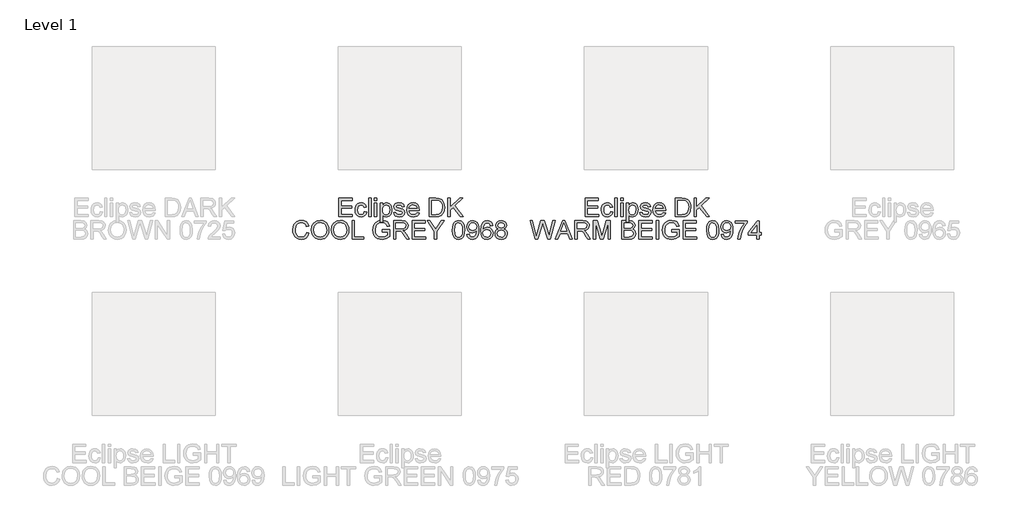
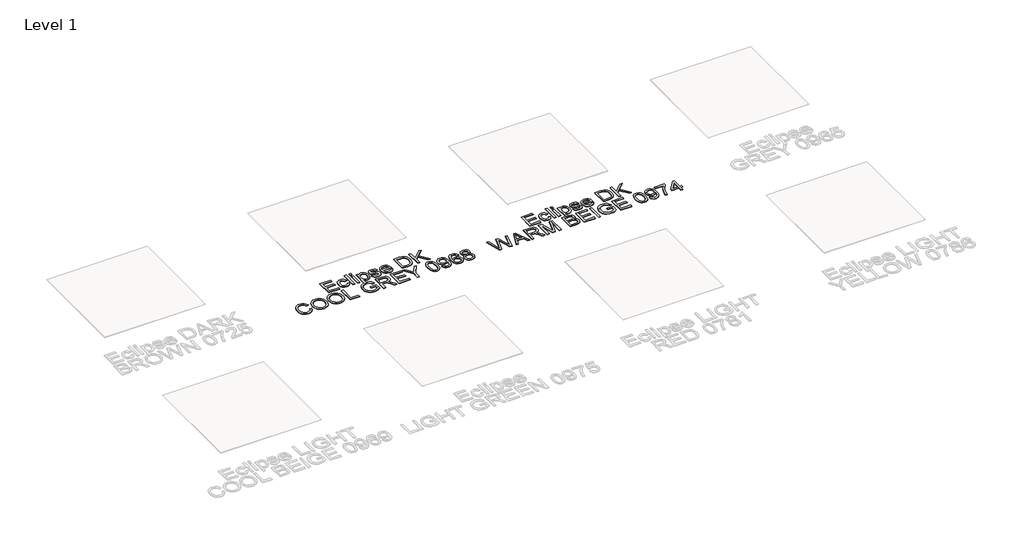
# One storey, part 11 of 13: 2 proxies.
"""IFC4 building model written with IfcOpenShell, lengths in millimetres."""

from ifc_helpers import new_model, si_unit, origin, origin_with_axes, place, context, project, spatial, polyline, outline, extrude, element, save

model = new_model("IFC4")

# Units and contexts
model_context = context("Model", 3, world=origin())
ifc_project = project(units=[si_unit("LENGTHUNIT", "METRE", prefix="MILLI")], contexts=[model_context])

# Site, building, storey
site = spatial("IfcSite", under=ifc_project)
building = spatial("IfcBuilding", under=site)
storey = spatial("IfcBuildingStorey", under=building, Name="Level 1", Elevation=0.0)

# Proxies
placement = place(None, origin())
element("IfcBuildingElementProxy", 1, Name="150mm Arial", ObjectType="150mm Arial", at=placement, inside=storey, context=model_context, shape_type="SweptSolid", body=[
    extrude(outline(polyline([(-429.5514672, 637.0544578), (-429.5514672, 787.738923), (-321.2470078, 787.738923), (-321.2470078, 768.9033648), (-410.7159091, 768.9033648), (-410.7159091, 724.1689142), (-325.9558974, 724.1689142), (-325.9558974, 705.3333561), (-410.7159091, 705.3333561), (-410.7159091, 655.8900159), (-318.8925631, 655.8900159), (-318.8925631, 637.0544578), (-429.5514672, 637.0544578)])), origin_with_axes(), (0.0, 0.0, 1.0), 5.0),
    extrude(outline(polyline([(-222.3603275, 677.0800188), (-203.5247694, 674.7255741), (-208.7762849, 657.9731477), (-218.6447194, 645.3134086), (-232.2011709, 637.3533619), (-248.5167374, 634.700013), (-268.5525105, 638.4018256), (-284.219685, 649.5072633), (-294.3318414, 667.5288825), (-297.7025601, 691.9792397), (-296.2632218, 708.7408631), (-291.9452069, 723.2676033), (-284.6795375, 734.9984405), (-274.3972357, 743.3723544), (-262.0961815, 748.3939436), (-248.7742548, 750.0678067), (-232.85876, 747.7685442), (-220.1346415, 740.8707568), (-211.0065695, 729.7423265), (-205.8792141, 714.7511352), (-224.7147723, 712.3966904), (-233.4519697, 726.5049649), (-248.627102, 731.2322485), (-260.7993975, 728.9053949), (-270.4608984, 721.9248341), (-276.7654761, 709.9134869), (-278.867002, 692.4942744), (-276.8114613, 674.8405372), (-270.6448394, 662.7878033), (-261.1580824, 655.8486292), (-249.1421368, 653.5355712), (-239.3886654, 654.979508), (-231.3918305, 659.3113185), (-225.5746965, 666.6413672), (-222.3603275, 677.0800188)])), origin_with_axes(), (0.0, 0.0, 1.0), 5.0),
    extrude(outline(polyline([(-187.043656, 637.0544578), (-187.043656, 787.738923), (-168.2080978, 787.738923), (-168.2080978, 637.0544578), (-187.043656, 637.0544578)])), origin_with_axes(), (0.0, 0.0, 1.0), 5.0),
    extrude(outline(polyline([(-139.9547606, 768.9033648), (-139.9547606, 787.738923), (-121.1192025, 787.738923), (-121.1192025, 768.9033648), (-139.9547606, 768.9033648)])), origin_with_axes(), (0.0, 0.0, 1.0), 5.0),
    extrude(outline(polyline([(-139.9547606, 637.0544578), (-139.9547606, 747.7133619), (-121.1192025, 747.7133619), (-121.1192025, 637.0544578), (-139.9547606, 637.0544578)])), origin_with_axes(), (0.0, 0.0, 1.0), 5.0),
    extrude(outline(polyline([(-92.8658652, 594.6744519), (-92.8658652, 747.7133619), (-74.0303071, 747.7133619), (-74.0303071, 729.2456858), (-61.0072844, 744.8622765), (-43.4225251, 750.0678067), (-30.684611, 748.2467908), (-19.5469836, 742.7837432), (-10.4786924, 734.0097576), (-3.948787, 722.2559279), (1.3119255, 693.2300384), (-0.173398, 677.1214056), (-4.6293687, 662.7142269), (-11.9134322, 650.739668), (-21.8830343, 641.9288942), (-33.4943097, 636.5072333), (-45.7033934, 634.700013), (-62.0925363, 639.5376612), (-74.0303071, 651.7697376), (-74.0303071, 594.6744519), (-92.8658652, 594.6744519)]), holes=[polyline([(-74.0303071, 691.5009931), (-71.9931605, 674.6152095), (-65.8817209, 662.8061974), (-56.8640135, 655.8532277), (-46.1080636, 653.5355712), (-35.1773699, 655.9360012), (-25.9297362, 663.1372912), (-19.6251585, 675.3785646), (-17.5236326, 692.8989446), (-19.5745747, 709.6927577), (-25.7274011, 721.6673167), (-34.7313129, 728.8410156), (-45.3355115, 731.2322485), (-55.9810967, 728.6892642), (-65.3298979, 721.0603114), (-71.8552048, 708.5845132), (-74.0303071, 691.5009931)])]), origin_with_axes(), (0.0, 0.0, 1.0), 5.0),
    extrude(outline(polyline([(15.4385942, 670.0166845), (34.2741523, 672.3711293), (37.2447994, 664.3145136), (42.9929556, 658.3916135), (62.9689479, 653.5355712), (82.1723881, 657.9869433), (88.426382, 668.434792), (86.8536865, 673.235652), (82.1355999, 676.8960778), (62.7482187, 682.267155), (34.3845169, 691.482599), (22.0052878, 702.2431473), (17.7930389, 717.4366737), (21.1775533, 731.4713718), (30.4113914, 742.195132), (42.3859503, 747.7685442), (58.5911522, 750.0678067), (81.5102005, 746.3705926), (96.0783275, 736.3642024), (102.5530506, 719.4600247), (83.7174925, 717.1055799), (76.6357641, 727.4982463), (60.0626802, 731.2322485), (42.0364624, 727.6637932), (36.6285971, 719.3496601), (38.8726772, 713.8682184), (45.8992234, 709.7111518), (62.1228193, 705.7012381), (89.7691513, 696.835282), (102.6082329, 686.7921035), (107.2619401, 670.4213547), (101.7988925, 652.395137), (86.035149, 639.316932), (62.7114305, 634.700013), (43.7195225, 636.9256991), (29.8595684, 643.6027573), (20.6073362, 654.6576112), (15.4385942, 670.0166845)])), origin_with_axes(), (0.0, 0.0, 1.0), 5.0),
    extrude(outline(polyline([(205.9278913, 670.0166845), (224.3955674, 667.6622398), (217.7415018, 653.7471033), (207.1235077, 643.3452399), (192.7807085, 636.8613197), (174.9522273, 634.700013), (152.8517164, 638.4294167), (135.8463712, 649.6176279), (125.0030494, 667.5380796), (121.3886088, 691.4642049), (125.0398376, 716.195072), (135.993524, 734.6903393), (152.768943, 746.2234398), (173.8853695, 750.0678067), (194.3442069, 746.2326369), (210.6919631, 734.7271275), (221.4111247, 716.2686484), (224.9841786, 691.5745695), (224.873814, 686.4977979), (140.2241669, 686.4977979), (143.4845211, 672.3987205), (151.0582917, 662.0336452), (161.9889855, 655.6600897), (175.3201093, 653.5355712), (193.7877854, 657.4719085), (205.9278913, 670.0166845)]), holes=[polyline([(140.2241669, 705.3333561), (206.1486205, 705.3333561), (203.6010376, 715.284564), (198.6070396, 722.4030807), (187.625762, 729.0249566), (173.8117931, 731.2322485), (161.1152657, 729.4710135), (150.6168333, 724.1873083), (143.3189742, 715.9513502), (140.2241669, 705.3333561)])]), origin_with_axes(), (0.0, 0.0, 1.0), 5.0),
    extrude(outline(polyline([(305.0353008, 637.0544578), (305.0353008, 787.738923), (357.0170267, 787.738923), (383.9092005, 785.5684192), (406.0556966, 774.7894768), (416.4759541, 763.3115585), (423.8979734, 749.0377371), (428.3401485, 732.243924), (429.8208735, 713.2060308), (425.8109598, 682.8005839), (415.5102639, 660.8564229), (401.7514773, 647.1896067), (383.7436536, 639.6296317), (359.5186242, 637.0544578), (305.0353008, 637.0544578)]), holes=[polyline([(323.8708589, 655.8900159), (357.2009677, 655.8900159), (381.4443912, 658.6123427), (395.423907, 666.3010764), (406.8834311, 685.0078758), (410.9853154, 713.5003364), (408.97576, 734.0281517), (402.9470938, 749.1848899), (394.039751, 759.5959504), (383.3941657, 765.8867325), (356.6859329, 768.9033648), (323.8708589, 768.9033648), (323.8708589, 655.8900159)])]), origin_with_axes(), (0.0, 0.0, 1.0), 5.0),
    extrude(outline(polyline([(455.719766, 637.0544578), (455.719766, 787.738923), (474.5553241, 787.738923), (474.5553241, 713.978583), (551.8105431, 787.738923), (578.150894, 787.738923), (513.2932982, 725.787595), (580.5053387, 637.0544578), (557.4759258, 637.0544578), (499.9391818, 713.058878), (474.5553241, 688.8522427), (474.5553241, 637.0544578), (455.719766, 637.0544578)])), origin_with_axes(), (0.0, 0.0, 1.0), 5.0),
    extrude(outline(polyline([(-690.8948366, 507.6558495), (-672.0592784, 502.7998072), (-680.7504906, 480.8510476), (-694.3897155, 464.8159912), (-712.3055687, 455.0073375), (-733.8266654, 451.7377862), (-755.6742574, 454.2117927), (-773.024492, 461.6338119), (-786.3234261, 473.7463266), (-796.0171167, 490.2918193), (-801.9354183, 509.7435798), (-803.9081855, 530.5748978), (-801.6779009, 552.54665), (-794.9870471, 571.5201639), (-784.185112, 586.8930327), (-769.6215836, 598.0628498), (-752.3495239, 604.8640682), (-733.4219952, 607.131141), (-712.7700197, 604.1972821), (-695.6956966, 595.3957053), (-682.7324548, 581.2690367), (-674.4137232, 562.3599022), (-693.2492814, 557.8717418), (-699.7791868, 571.6075358), (-708.7003252, 581.0299134), (-720.1230611, 586.4791655), (-734.1577592, 588.2955828), (-750.33537, 586.2814289), (-763.625107, 580.2389671), (-773.7096722, 570.802794), (-780.2717673, 558.6075058), (-785.0726274, 530.611686), (-783.6516831, 513.2108676), (-779.3888505, 498.164494), (-772.1231811, 486.0473808), (-761.6937266, 477.4343436), (-749.1903372, 472.2885942), (-735.7028636, 470.5733444), (-719.9805068, 472.9093951), (-706.8793093, 479.9175471), (-696.9878821, 491.524224), (-690.8948366, 507.6558495)])), origin_with_axes(), (0.0, 0.0, 1.0), 5.0),
    extrude(outline(polyline([(-653.2237203, 527.4479008), (-648.202131, 560.7688126), (-641.9251445, 574.3873442), (-633.1373633, 585.9779263), (-610.1355416, 601.8428373), (-581.3027902, 607.131141), (-561.53833, 604.6479375), (-543.8156149, 597.1983271), (-529.1003351, 585.3065416), (-518.3581808, 569.4968129), (-511.7914872, 550.532496), (-509.6025894, 529.1769462), (-511.9064504, 507.5362879), (-518.8180333, 488.3052566), (-529.9556607, 472.4679367), (-544.937655, 461.0084125), (-562.5086188, 454.0554428), (-581.4131548, 451.7377862), (-601.4811177, 454.2991646), (-619.3050003, 461.9832998), (-633.9834919, 474.0958145), (-644.6152816, 489.9423314), (-651.0716106, 508.1754828), (-653.2237203, 527.4479008)]), holes=[polyline([(-634.3881621, 527.2639598), (-630.6219702, 503.691921), (-619.3233944, 485.7300826), (-602.3410418, 474.3625289), (-581.5235194, 470.5733444), (-560.4024944, 474.3993171), (-543.3925506, 485.8772354), (-532.1767483, 504.3908968), (-528.4381475, 529.324099), (-530.0384342, 545.9983504), (-534.8392942, 560.4101276), (-542.7165675, 572.196147), (-553.5460937, 580.9931252), (-566.610503, 586.4699684), (-581.1924256, 588.2955828), (-601.4535265, 584.7777113), (-618.6796009, 574.2240965), (-630.4610218, 555.4483192), (-634.3881621, 527.2639598)])]), origin_with_axes(), (0.0, 0.0, 1.0), 5.0),
    extrude(outline(polyline([(-490.7670312, 527.4479008), (-485.745442, 560.7688126), (-479.4684554, 574.3873442), (-470.6806743, 585.9779263), (-447.6788525, 601.8428373), (-418.8461012, 607.131141), (-399.081641, 604.6479375), (-381.3589258, 597.1983271), (-366.643646, 585.3065416), (-355.9014918, 569.4968129), (-349.3347982, 550.532496), (-347.1459003, 529.1769462), (-349.4497613, 507.5362879), (-356.3613443, 488.3052566), (-367.4989717, 472.4679367), (-382.4809659, 461.0084125), (-400.0519297, 454.0554428), (-418.9564658, 451.7377862), (-439.0244286, 454.2991646), (-456.8483113, 461.9832998), (-471.5268029, 474.0958145), (-482.1585925, 489.9423314), (-488.6149215, 508.1754828), (-490.7670312, 527.4479008)]), holes=[polyline([(-471.9314731, 527.2639598), (-468.1652811, 503.691921), (-456.8667054, 485.7300826), (-439.8843528, 474.3625289), (-419.0668304, 470.5733444), (-397.9458053, 474.3993171), (-380.9358616, 485.8772354), (-369.7200592, 504.3908968), (-365.9814584, 529.324099), (-367.5817451, 545.9983504), (-372.3826052, 560.4101276), (-380.2598784, 572.196147), (-391.0894046, 580.9931252), (-404.153814, 586.4699684), (-418.7357366, 588.2955828), (-438.9968374, 584.7777113), (-456.2229119, 574.2240965), (-468.0043328, 555.4483192), (-471.9314731, 527.2639598)])]), origin_with_axes(), (0.0, 0.0, 1.0), 5.0),
    extrude(outline(polyline([(-321.2470078, 454.092231), (-321.2470078, 604.7766962), (-302.4114497, 604.7766962), (-302.4114497, 472.9277892), (-227.0692171, 472.9277892), (-227.0692171, 454.092231), (-321.2470078, 454.092231)])), origin_with_axes(), (0.0, 0.0, 1.0), 5.0),
    extrude(outline(polyline([(-76.3847518, 512.9533502), (-76.3847518, 531.7889084), (-15.1691878, 531.7889084), (-15.1691878, 475.4661749), (-45.3906937, 457.6974746), (-77.341245, 451.7377862), (-98.4714671, 454.1060266), (-117.5691412, 461.2107476), (-133.4340522, 472.803629), (-144.8659852, 488.6363503), (-151.7775682, 507.6282584), (-154.0814292, 528.6986996), (-151.7867653, 549.9208922), (-144.9027734, 569.6623598), (-133.7145623, 586.2216481), (-118.5072403, 597.8973029), (-99.9843818, 604.8226815), (-78.8495612, 607.131141), (-49.3822134, 601.778458), (-37.6329822, 595.3773113), (-28.7256394, 586.8792372), (-17.3396916, 561.955232), (-34.7037218, 557.0624015), (-43.2937664, 574.4816139), (-57.972258, 584.5247924), (-79.1438668, 588.2955828), (-103.2585316, 584.2304868), (-119.6660686, 573.5619089), (-129.3597591, 559.0489642), (-135.2458711, 529.4712518), (-133.475439, 511.4588296), (-128.1641427, 496.6377837), (-119.4729305, 485.1138802), (-107.5627509, 476.9928852), (-93.6246218, 472.1782296), (-78.8495612, 470.5733444), (-53.0794274, 475.4109926), (-34.004746, 485.7300826), (-34.004746, 512.9533502), (-76.3847518, 512.9533502)])), origin_with_axes(), (0.0, 0.0, 1.0), 5.0),
    extrude(outline(polyline([(15.4385942, 454.092231), (15.4385942, 604.7766962), (80.3697663, 604.7766962), (110.5176958, 600.7116002), (119.7975191, 595.0830057), (126.9988092, 586.3274142), (131.6203268, 575.4702968), (133.1608326, 563.5371246), (130.6086513, 548.6930861), (122.9521072, 536.3874333), (109.9612743, 527.3651274), (91.4062262, 522.3711293), (102.1115922, 514.3145136), (117.378695, 494.9271325), (142.5050353, 454.092231), (120.6160566, 454.092231), (101.0079462, 485.3254124), (86.8444894, 506.0003805), (76.8932814, 515.7676475), (67.9353549, 519.3544969), (57.0092596, 520.0166845), (34.2741523, 520.0166845), (34.2741523, 454.092231), (15.4385942, 454.092231)]), holes=[polyline([(34.2741523, 538.8522427), (76.433429, 538.8522427), (97.9361316, 541.5193872), (110.1498138, 550.0542494), (114.3252745, 562.8381488), (112.3341132, 572.0260016), (106.3606293, 579.4296268), (96.082926, 584.3132602), (81.1791067, 585.9411381), (34.2741523, 585.9411381), (34.2741523, 538.8522427)])]), origin_with_axes(), (0.0, 0.0, 1.0), 5.0),
    extrude(outline(polyline([(166.1230594, 454.092231), (166.1230594, 604.7766962), (274.4275188, 604.7766962), (274.4275188, 585.9411381), (184.9586175, 585.9411381), (184.9586175, 541.2066875), (269.7186292, 541.2066875), (269.7186292, 522.3711293), (184.9586175, 522.3711293), (184.9586175, 472.9277892), (276.7819635, 472.9277892), (276.7819635, 454.092231), (166.1230594, 454.092231)])), origin_with_axes(), (0.0, 0.0, 1.0), 5.0),
    extrude(outline(polyline([(347.4153066, 454.092231), (347.4153066, 517.9197572), (288.5541874, 604.7766962), (310.7742599, 604.7766962), (342.1913823, 558.3867766), (358.2678255, 534.7319643), (374.3810568, 560.0790338), (402.8919115, 604.7766962), (425.111984, 604.7766962), (366.2508648, 517.9197572), (366.2508648, 454.092231), (347.4153066, 454.092231)])), origin_with_axes(), (0.0, 0.0, 1.0), 5.0),
    extrude(outline(polyline([(493.3908823, 528.220453), (494.7750383, 552.3397163), (498.9275063, 571.5753462), (505.8068996, 586.2216481), (515.3718315, 596.5729277), (527.6912798, 602.7257541), (542.8342224, 604.7766962), (564.8335657, 599.9206539), (580.0270922, 585.922744), (588.85626, 563.6290951), (592.2775626, 528.220453), (590.9072022, 504.2391455), (586.7961209, 485.0495009), (579.9581143, 470.3894034), (570.406978, 459.996737), (558.0599385, 453.8025239), (542.8342224, 451.7377862), (523.2629003, 455.3246357), (508.4004677, 466.085184), (497.1432786, 491.5702093), (493.3908823, 528.220453)]), holes=[polyline([(512.2264404, 528.2572412), (514.4337324, 498.628945), (521.0556083, 481.4810455), (530.9148458, 473.3002697), (542.8342224, 470.5733444), (554.7535991, 473.3094667), (564.6128366, 481.5178337), (571.2347125, 498.6749303), (573.4420044, 528.2572412), (571.3082889, 557.2187513), (564.9071421, 574.500008), (555.0662988, 583.0808556), (542.6134932, 585.9411381), (530.8228753, 583.4211464), (521.3499139, 575.8611714), (514.5073088, 557.5038598), (512.2264404, 528.2572412)])]), origin_with_axes(), (0.0, 0.0, 1.0), 5.0),
    extrude(outline(polyline([(611.1131207, 491.7633473), (629.9486789, 494.1177921), (633.1676464, 483.4262216), (638.4099648, 476.1467566), (645.5468755, 471.9666974), (654.4496198, 470.5733444), (669.6983285, 474.1601938), (680.0358125, 483.7435198), (686.197836, 500.1142686), (688.9201627, 521.9664591), (688.8097981, 525.6452791), (673.7450304, 511.3714577), (653.0884564, 505.8900159), (635.9129657, 509.2377421), (621.6161517, 519.2809205), (611.9730449, 534.7963437), (608.758676, 554.5608039), (612.1293948, 574.9782546), (622.2415511, 590.9811214), (637.430479, 601.3278025), (656.0315124, 604.7766962), (670.080006, 602.8085276), (682.8685039, 596.9040215), (693.5646729, 587.3574838), (701.3361801, 574.4632198), (706.0680622, 556.6393372), (707.6453563, 532.3039432), (706.0726607, 506.5016197), (701.3545742, 486.5578171), (693.5324832, 471.5712243), (682.6477747, 460.6405305), (669.1694981, 453.9634723), (653.566703, 451.7377862), (637.4626686, 454.363544), (624.61439, 462.2408172), (615.6288722, 474.8729652), (611.1131207, 491.7633473)]), holes=[polyline([(688.8097981, 555.0022623), (686.7772501, 567.7677675), (680.679606, 577.5902168), (671.2158417, 583.8534078), (659.0849329, 585.9411381), (646.5033687, 583.6924594), (636.423402, 576.9464233), (629.8015261, 566.6227348), (627.5942341, 553.6410989), (629.6819644, 542.0022323), (635.9451554, 532.7637957), (645.7768017, 526.7351295), (658.5698981, 524.7255741), (670.6042379, 526.7351295), (680.2933299, 532.7637957), (686.6806811, 542.3425231), (688.8097981, 555.0022623)])]), origin_with_axes(), (0.0, 0.0, 1.0), 5.0),
    extrude(outline(polyline([(820.6587052, 564.7511352), (801.823147, 562.3966904), (794.6862363, 578.1052516), (786.142177, 583.9821664), (775.81389, 585.9411381), (758.8177418, 581.3794013), (745.9602661, 564.2544945), (742.0561184, 550.2243949), (740.607583, 530.6852624), (757.2174551, 545.7132419), (777.8004528, 550.6244665), (795.2012711, 547.2675433), (809.8061863, 537.1967737), (819.7114091, 521.8101093), (823.01315, 502.5055016), (821.4588485, 489.0180279), (816.7959442, 476.5146386), (809.4107132, 465.9104401), (799.6894315, 458.1205388), (788.0735575, 453.3334744), (775.0045496, 451.7377862), (753.6352042, 455.9684292), (736.6160634, 468.660358), (725.4830345, 491.0643715), (721.7720249, 524.4312685), (725.8923032, 561.9460349), (738.2531383, 587.5966071), (755.1297248, 600.4816739), (776.9911124, 604.7766962), (793.518211, 602.1187488), (806.7527658, 594.1449066), (816.0233921, 581.4805689), (820.6587052, 564.7511352)]), holes=[polyline([(740.607583, 502.7998072), (744.9669847, 486.4842407), (756.5552675, 474.6384404), (773.5330216, 470.5733444), (785.9628345, 472.6794688), (795.7347, 478.9978421), (802.0668689, 488.9306559), (804.1775918, 501.8801022), (802.09446, 514.3099151), (795.8450646, 523.787475), (785.9076522, 529.78855), (772.7604694, 531.7889084), (760.3490506, 529.78855), (749.9701798, 523.787475), (742.9482322, 514.5398413), (740.607583, 502.7998072)])]), origin_with_axes(), (0.0, 0.0, 1.0), 5.0),
    extrude(outline(polyline([(866.9382602, 537.0864091), (849.7765651, 548.7850566), (844.2031529, 566.9952153), (847.2381793, 581.7196922), (856.3432587, 593.8873892), (870.4975185, 602.0543695), (888.6800861, 604.7766962), (906.9730183, 601.9899901), (921.3112191, 593.6298718), (930.5818454, 581.2690367), (933.6720541, 566.4801805), (928.1722183, 548.7298743), (911.4887698, 537.0864091), (923.0816512, 531.1129252), (931.5199444, 522.315947), (936.6656938, 511.1185388), (938.3809437, 497.9437648), (934.9780352, 479.9359412), (924.7693098, 465.0551145), (909.0055663, 455.0671183), (888.9376035, 451.7377862), (868.8696407, 455.0809139), (853.1058972, 465.1102968), (842.8971718, 480.1336777), (839.4942633, 498.4587996), (841.278491, 512.1440098), (846.6311741, 523.4011989), (855.2764009, 531.8440907), (866.9382602, 537.0864091)]), holes=[polyline([(863.038711, 566.4433923), (864.7079756, 558.2212297), (869.7157693, 551.6545361), (877.9149392, 547.3503168), (889.1583327, 545.915577), (900.1396103, 547.3411197), (908.21462, 551.6177479), (913.181027, 557.9637123), (914.836496, 565.5972637), (913.1258447, 573.5205222), (907.9938909, 580.0734203), (899.8085165, 584.4742086), (888.9376035, 585.9411381), (877.9977127, 584.5063983), (869.8261339, 580.2021789), (864.7355667, 573.8930027), (863.038711, 566.4433923)]), polyline([(858.3298215, 499.1209872), (861.4752126, 484.9391363), (872.6036429, 474.3257407), (889.0847563, 470.5733444), (901.9054438, 472.5461116), (911.525558, 478.4644132), (917.5404286, 487.4269383), (919.5453855, 498.532376), (917.4760493, 509.8263533), (911.2680406, 518.986615), (901.4271972, 525.0566679), (888.4593569, 527.0800188), (875.8180118, 525.084259), (866.2944667, 519.0969796), (860.3209828, 510.1114618), (858.3298215, 499.1209872)])]), origin_with_axes(), (0.0, 0.0, 1.0), 5.0),
])
element("IfcBuildingElementProxy", 2, Name="150mm Arial", ObjectType="150mm Arial", at=placement, inside=storey, context=model_context, shape_type="SweptSolid", body=[
    extrude(outline(polyline([(1570.4485328, 637.0544578), (1570.4485328, 787.738923), (1678.7529922, 787.738923), (1678.7529922, 768.9033648), (1589.2840909, 768.9033648), (1589.2840909, 724.1689142), (1674.0441026, 724.1689142), (1674.0441026, 705.3333561), (1589.2840909, 705.3333561), (1589.2840909, 655.8900159), (1681.1074369, 655.8900159), (1681.1074369, 637.0544578), (1570.4485328, 637.0544578)])), origin_with_axes(), (0.0, 0.0, 1.0), 5.0),
    extrude(outline(polyline([(1777.6396725, 677.0800188), (1796.4752306, 674.7255741), (1791.2237151, 657.9731477), (1781.3552806, 645.3134086), (1767.7988291, 637.3533619), (1751.4832626, 634.700013), (1731.4474895, 638.4018256), (1715.780315, 649.5072633), (1705.6681586, 667.5288825), (1702.2974399, 691.9792397), (1703.7367782, 708.7408631), (1708.0547931, 723.2676033), (1715.3204625, 734.9984405), (1725.6027643, 743.3723544), (1737.9038185, 748.3939436), (1751.2257452, 750.0678067), (1767.14124, 747.7685442), (1779.8653585, 740.8707568), (1788.9934305, 729.7423265), (1794.1207859, 714.7511352), (1775.2852277, 712.3966904), (1766.5480303, 726.5049649), (1751.372898, 731.2322485), (1739.2006025, 728.9053949), (1729.5391016, 721.9248341), (1723.2345239, 709.9134869), (1721.132998, 692.4942744), (1723.1885387, 674.8405372), (1729.3551606, 662.7878033), (1738.8419176, 655.8486292), (1750.8578632, 653.5355712), (1760.6113346, 654.979508), (1768.6081695, 659.3113185), (1774.4253035, 666.6413672), (1777.6396725, 677.0800188)])), origin_with_axes(), (0.0, 0.0, 1.0), 5.0),
    extrude(outline(polyline([(1812.956344, 637.0544578), (1812.956344, 787.738923), (1831.7919022, 787.738923), (1831.7919022, 637.0544578), (1812.956344, 637.0544578)])), origin_with_axes(), (0.0, 0.0, 1.0), 5.0),
    extrude(outline(polyline([(1860.0452394, 768.9033648), (1860.0452394, 787.738923), (1878.8807975, 787.738923), (1878.8807975, 768.9033648), (1860.0452394, 768.9033648)])), origin_with_axes(), (0.0, 0.0, 1.0), 5.0),
    extrude(outline(polyline([(1860.0452394, 637.0544578), (1860.0452394, 747.7133619), (1878.8807975, 747.7133619), (1878.8807975, 637.0544578), (1860.0452394, 637.0544578)])), origin_with_axes(), (0.0, 0.0, 1.0), 5.0),
    extrude(outline(polyline([(1907.1341348, 594.6744519), (1907.1341348, 747.7133619), (1925.9696929, 747.7133619), (1925.9696929, 729.2456858), (1938.9927156, 744.8622765), (1956.5774749, 750.0678067), (1969.315389, 748.2467908), (1980.4530164, 742.7837432), (1989.5213076, 734.0097576), (1996.051213, 722.2559279), (2001.3119255, 693.2300384), (1999.826602, 677.1214056), (1995.3706313, 662.7142269), (1988.0865678, 650.739668), (1978.1169657, 641.9288942), (1966.5056903, 636.5072333), (1954.2966066, 634.700013), (1937.9074637, 639.5376612), (1925.9696929, 651.7697376), (1925.9696929, 594.6744519), (1907.1341348, 594.6744519)]), holes=[polyline([(1925.9696929, 691.5009931), (1928.0068395, 674.6152095), (1934.1182791, 662.8061974), (1943.1359865, 655.8532277), (1953.8919364, 653.5355712), (1964.8226301, 655.9360012), (1974.0702638, 663.1372912), (1980.3748415, 675.3785646), (1982.4763674, 692.8989446), (1980.4254253, 709.6927577), (1974.2725989, 721.6673167), (1965.2686871, 728.8410156), (1954.6644885, 731.2322485), (1944.0189033, 728.6892642), (1934.6701021, 721.0603114), (1928.1447952, 708.5845132), (1925.9696929, 691.5009931)])]), origin_with_axes(), (0.0, 0.0, 1.0), 5.0),
    extrude(outline(polyline([(2015.4385942, 670.0166845), (2034.2741523, 672.3711293), (2037.2447994, 664.3145136), (2042.9929556, 658.3916135), (2062.9689479, 653.5355712), (2082.1723881, 657.9869433), (2088.426382, 668.434792), (2086.8536865, 673.235652), (2082.1355999, 676.8960778), (2062.7482187, 682.267155), (2034.3845169, 691.482599), (2022.0052878, 702.2431473), (2017.7930389, 717.4366737), (2021.1775533, 731.4713718), (2030.4113914, 742.195132), (2042.3859503, 747.7685442), (2058.5911522, 750.0678067), (2081.5102005, 746.3705926), (2096.0783275, 736.3642024), (2102.5530506, 719.4600247), (2083.7174925, 717.1055799), (2076.6357641, 727.4982463), (2060.0626802, 731.2322485), (2042.0364624, 727.6637932), (2036.6285971, 719.3496601), (2038.8726772, 713.8682184), (2045.8992234, 709.7111518), (2062.1228193, 705.7012381), (2089.7691513, 696.835282), (2102.6082329, 686.7921035), (2107.2619401, 670.4213547), (2101.7988925, 652.395137), (2086.035149, 639.316932), (2062.7114305, 634.700013), (2043.7195225, 636.9256991), (2029.8595684, 643.6027573), (2020.6073362, 654.6576112), (2015.4385942, 670.0166845)])), origin_with_axes(), (0.0, 0.0, 1.0), 5.0),
    extrude(outline(polyline([(2205.9278913, 670.0166845), (2224.3955674, 667.6622398), (2217.7415018, 653.7471033), (2207.1235077, 643.3452399), (2192.7807085, 636.8613197), (2174.9522273, 634.700013), (2152.8517164, 638.4294167), (2135.8463712, 649.6176279), (2125.0030494, 667.5380796), (2121.3886088, 691.4642049), (2125.0398376, 716.195072), (2135.993524, 734.6903393), (2152.768943, 746.2234398), (2173.8853695, 750.0678067), (2194.3442069, 746.2326369), (2210.6919631, 734.7271275), (2221.4111247, 716.2686484), (2224.9841786, 691.5745695), (2224.873814, 686.4977979), (2140.2241669, 686.4977979), (2143.4845211, 672.3987205), (2151.0582917, 662.0336452), (2161.9889855, 655.6600897), (2175.3201093, 653.5355712), (2193.7877854, 657.4719085), (2205.9278913, 670.0166845)]), holes=[polyline([(2140.2241669, 705.3333561), (2206.1486205, 705.3333561), (2203.6010376, 715.284564), (2198.6070396, 722.4030807), (2187.625762, 729.0249566), (2173.8117931, 731.2322485), (2161.1152657, 729.4710135), (2150.6168333, 724.1873083), (2143.3189742, 715.9513502), (2140.2241669, 705.3333561)])]), origin_with_axes(), (0.0, 0.0, 1.0), 5.0),
    extrude(outline(polyline([(2305.0353008, 637.0544578), (2305.0353008, 787.738923), (2357.0170267, 787.738923), (2383.9092005, 785.5684192), (2406.0556966, 774.7894768), (2416.4759541, 763.3115585), (2423.8979734, 749.0377371), (2428.3401485, 732.243924), (2429.8208735, 713.2060308), (2425.8109598, 682.8005839), (2415.5102639, 660.8564229), (2401.7514773, 647.1896067), (2383.7436536, 639.6296317), (2359.5186242, 637.0544578), (2305.0353008, 637.0544578)]), holes=[polyline([(2323.8708589, 655.8900159), (2357.2009677, 655.8900159), (2381.4443912, 658.6123427), (2395.423907, 666.3010764), (2406.8834311, 685.0078758), (2410.9853154, 713.5003364), (2408.97576, 734.0281517), (2402.9470938, 749.1848899), (2394.039751, 759.5959504), (2383.3941657, 765.8867325), (2356.6859329, 768.9033648), (2323.8708589, 768.9033648), (2323.8708589, 655.8900159)])]), origin_with_axes(), (0.0, 0.0, 1.0), 5.0),
    extrude(outline(polyline([(2455.719766, 637.0544578), (2455.719766, 787.738923), (2474.5553241, 787.738923), (2474.5553241, 713.978583), (2551.8105431, 787.738923), (2578.150894, 787.738923), (2513.2932982, 725.787595), (2580.5053387, 637.0544578), (2557.4759258, 637.0544578), (2499.9391818, 713.058878), (2474.5553241, 688.8522427), (2474.5553241, 637.0544578), (2455.719766, 637.0544578)])), origin_with_axes(), (0.0, 0.0, 1.0), 5.0),
    extrude(outline(polyline([(1165.3736679, 454.092231), (1124.281249, 604.7766962), (1143.7054184, 604.7766962), (1167.5441717, 505.7428631), (1174.9018116, 475.1718693), (1182.7744863, 502.211196), (1212.6465043, 604.7766962), (1240.6423241, 604.7766962), (1262.3473618, 530.427745), (1278.4973814, 475.1718693), (1285.6342921, 504.8599463), (1309.6937746, 604.7766962), (1329.117944, 604.7766962), (1287.9887369, 454.092231), (1267.8655918, 454.092231), (1231.7395798, 570.3429415), (1226.6995965, 586.5665375), (1221.0342138, 567.0320035), (1188.1087752, 454.092231), (1165.3736679, 454.092231)])), origin_with_axes(), (0.0, 0.0, 1.0), 5.0),
    extrude(outline(polyline([(1330.4055309, 454.092231), (1390.5542371, 604.7766962), (1406.5938921, 604.7766962), (1466.7425983, 454.092231), (1446.8401824, 454.092231), (1429.5865168, 501.1811264), (1367.5248242, 501.1811264), (1350.3079469, 454.092231), (1330.4055309, 454.092231)]), holes=[polyline([(1374.4410058, 520.0166845), (1422.7071235, 520.0166845), (1409.1322779, 557.0624015), (1398.5740646, 585.9411381), (1389.1930738, 560.299763), (1374.4410058, 520.0166845)])]), origin_with_axes(), (0.0, 0.0, 1.0), 5.0),
    extrude(outline(polyline([(1486.8657435, 454.092231), (1486.8657435, 604.7766962), (1551.7969156, 604.7766962), (1581.9448451, 600.7116002), (1591.2246685, 595.0830057), (1598.4259585, 586.3274142), (1603.0474761, 575.4702968), (1604.5879819, 563.5371246), (1602.0358006, 548.6930861), (1594.3792566, 536.3874333), (1581.3884236, 527.3651274), (1562.8333755, 522.3711293), (1573.5387415, 514.3145136), (1588.8058443, 494.9271325), (1613.9321846, 454.092231), (1592.0432059, 454.092231), (1572.4350956, 485.3254124), (1558.2716387, 506.0003805), (1548.3204308, 515.7676475), (1539.3625042, 519.3544969), (1528.4364089, 520.0166845), (1505.7013016, 520.0166845), (1505.7013016, 454.092231), (1486.8657435, 454.092231)]), holes=[polyline([(1505.7013016, 538.8522427), (1547.8605783, 538.8522427), (1569.3632809, 541.5193872), (1581.5769631, 550.0542494), (1585.7524238, 562.8381488), (1583.7612625, 572.0260016), (1577.7877786, 579.4296268), (1567.5100754, 584.3132602), (1552.606256, 585.9411381), (1505.7013016, 585.9411381), (1505.7013016, 538.8522427)])]), origin_with_axes(), (0.0, 0.0, 1.0), 5.0),
    extrude(outline(polyline([(1637.5502087, 454.092231), (1637.5502087, 604.7766962), (1669.9606125, 604.7766962), (1700.7891237, 498.5691642), (1707.0063294, 476.3858799), (1713.7385699, 500.4085742), (1744.0520463, 604.7766962), (1776.4624501, 604.7766962), (1776.4624501, 454.092231), (1757.6268919, 454.092231), (1757.6268919, 585.9411381), (1719.7718346, 454.092231), (1694.2408242, 454.092231), (1656.3857669, 585.9411381), (1656.3857669, 454.092231), (1637.5502087, 454.092231)])), origin_with_axes(), (0.0, 0.0, 1.0), 5.0),
    extrude(outline(polyline([(1868.2857961, 454.092231), (1868.2857961, 604.7766962), (1925.7857519, 604.7766962), (1953.9471187, 600.3437182), (1963.410883, 594.7197222), (1970.5753848, 586.7136903), (1976.5902555, 567.4366737), (1971.531878, 549.8335202), (1956.2463811, 536.4977979), (1966.9195575, 530.9243857), (1974.8060278, 522.4447057), (1979.6758657, 511.619778), (1981.299145, 499.0106226), (1976.866167, 478.7587188), (1965.8848894, 464.3377446), (1949.4957465, 456.6857991), (1925.3442935, 454.092231), (1868.2857961, 454.092231)]), holes=[polyline([(1887.1213542, 543.5611322), (1921.5183208, 543.5611322), (1941.6046777, 545.179813), (1953.6896013, 552.1511768), (1957.7546973, 564.4200414), (1953.9655128, 576.7073), (1943.1129939, 583.9729694), (1918.9063586, 585.9411381), (1887.1213542, 585.9411381), (1887.1213542, 543.5611322)]), polyline([(1887.1213542, 472.9277892), (1925.7489637, 472.9277892), (1939.7284795, 473.6635531), (1951.5558857, 477.7654374), (1959.3917722, 486.1347528), (1962.4635868, 498.8266816), (1958.8583433, 513.468385), (1947.1780899, 522.2055824), (1923.9095538, 524.7255741), (1887.1213542, 524.7255741), (1887.1213542, 472.9277892)])]), origin_with_axes(), (0.0, 0.0, 1.0), 5.0),
    extrude(outline(polyline([(2007.1980375, 454.092231), (2007.1980375, 604.7766962), (2115.5024968, 604.7766962), (2115.5024968, 585.9411381), (2026.0335956, 585.9411381), (2026.0335956, 541.2066875), (2110.7936073, 541.2066875), (2110.7936073, 522.3711293), (2026.0335956, 522.3711293), (2026.0335956, 472.9277892), (2117.8569416, 472.9277892), (2117.8569416, 454.092231), (2007.1980375, 454.092231)])), origin_with_axes(), (0.0, 0.0, 1.0), 5.0),
    extrude(outline(polyline([(2148.4647236, 454.092231), (2148.4647236, 604.7766962), (2167.3002818, 604.7766962), (2167.3002818, 454.092231), (2148.4647236, 454.092231)])), origin_with_axes(), (0.0, 0.0, 1.0), 5.0),
    extrude(outline(polyline([(2275.6047411, 512.9533502), (2275.6047411, 531.7889084), (2336.8203051, 531.7889084), (2336.8203051, 475.4661749), (2306.5987992, 457.6974746), (2274.648248, 451.7377862), (2253.5180259, 454.1060266), (2234.4203518, 461.2107476), (2218.5554407, 472.803629), (2207.1235077, 488.6363503), (2200.2119248, 507.6282584), (2197.9080638, 528.6986996), (2200.2027277, 549.9208922), (2207.0867195, 569.6623598), (2218.2749307, 586.2216481), (2233.4822527, 597.8973029), (2252.0051112, 604.8226815), (2273.1399318, 607.131141), (2302.6072796, 601.778458), (2314.3565108, 595.3773113), (2323.2638536, 586.8792372), (2334.6498014, 561.955232), (2317.2857712, 557.0624015), (2308.6957266, 574.4816139), (2294.017235, 584.5247924), (2272.8456262, 588.2955828), (2248.7309614, 584.2304868), (2232.3234244, 573.5619089), (2222.6297338, 559.0489642), (2216.7436219, 529.4712518), (2218.514054, 511.4588296), (2223.8253503, 496.6377837), (2232.5165625, 485.1138802), (2244.4267421, 476.9928852), (2258.3648711, 472.1782296), (2273.1399318, 470.5733444), (2298.9100655, 475.4109926), (2317.984747, 485.7300826), (2317.984747, 512.9533502), (2275.6047411, 512.9533502)])), origin_with_axes(), (0.0, 0.0, 1.0), 5.0),
    extrude(outline(polyline([(2367.4280871, 454.092231), (2367.4280871, 604.7766962), (2475.7325465, 604.7766962), (2475.7325465, 585.9411381), (2386.2636453, 585.9411381), (2386.2636453, 541.2066875), (2471.023657, 541.2066875), (2471.023657, 522.3711293), (2386.2636453, 522.3711293), (2386.2636453, 472.9277892), (2478.0869913, 472.9277892), (2478.0869913, 454.092231), (2367.4280871, 454.092231)])), origin_with_axes(), (0.0, 0.0, 1.0), 5.0),
    extrude(outline(polyline([(2558.1381134, 528.220453), (2559.5222694, 552.3397163), (2563.6747375, 571.5753462), (2570.5541308, 586.2216481), (2580.1190626, 596.5729277), (2592.438511, 602.7257541), (2607.5814536, 604.7766962), (2629.5807969, 599.9206539), (2644.7743233, 585.922744), (2653.6034912, 563.6290951), (2657.0247937, 528.220453), (2655.6544333, 504.2391455), (2651.543352, 485.0495009), (2644.7053454, 470.3894034), (2635.1542091, 459.996737), (2622.8071697, 453.8025239), (2607.5814536, 451.7377862), (2588.0101314, 455.3246357), (2573.1476988, 466.085184), (2561.8905098, 491.5702093), (2558.1381134, 528.220453)]), holes=[polyline([(2576.9736716, 528.2572412), (2579.1809636, 498.628945), (2585.8028395, 481.4810455), (2595.6620769, 473.3002697), (2607.5814536, 470.5733444), (2619.5008302, 473.3094667), (2629.3600677, 481.5178337), (2635.9819436, 498.6749303), (2638.1892356, 528.2572412), (2636.05552, 557.2187513), (2629.6543733, 574.500008), (2619.8135299, 583.0808556), (2607.3607244, 585.9411381), (2595.5701064, 583.4211464), (2586.0971451, 575.8611714), (2579.25454, 557.5038598), (2576.9736716, 528.2572412)])]), origin_with_axes(), (0.0, 0.0, 1.0), 5.0),
    extrude(outline(polyline([(2675.8603519, 491.7633473), (2694.69591, 494.1177921), (2697.9148775, 483.4262216), (2703.1571959, 476.1467566), (2710.2941066, 471.9666974), (2719.1968509, 470.5733444), (2734.4455596, 474.1601938), (2744.7830437, 483.7435198), (2750.9450671, 500.1142686), (2753.6673939, 521.9664591), (2753.5570293, 525.6452791), (2738.4922616, 511.3714577), (2717.8356875, 505.8900159), (2700.6601969, 509.2377421), (2686.3633829, 519.2809205), (2676.7202761, 534.7963437), (2673.5059071, 554.5608039), (2676.8766259, 574.9782546), (2686.9887822, 590.9811214), (2702.1777101, 601.3278025), (2720.7787435, 604.7766962), (2734.8272372, 602.8085276), (2747.6157351, 596.9040215), (2758.3119041, 587.3574838), (2766.0834112, 574.4632198), (2770.8152934, 556.6393372), (2772.3925874, 532.3039432), (2770.8198919, 506.5016197), (2766.1018053, 486.5578171), (2758.2797144, 471.5712243), (2747.3950059, 460.6405305), (2733.9167293, 453.9634723), (2718.3139341, 451.7377862), (2702.2098998, 454.363544), (2689.3616211, 462.2408172), (2680.3761034, 474.8729652), (2675.8603519, 491.7633473)]), holes=[polyline([(2753.5570293, 555.0022623), (2751.5244813, 567.7677675), (2745.4268372, 577.5902168), (2735.9630729, 583.8534078), (2723.8321641, 585.9411381), (2711.2505998, 583.6924594), (2701.1706332, 576.9464233), (2694.5487572, 566.6227348), (2692.3414653, 553.6410989), (2694.4291956, 542.0022323), (2700.6923866, 532.7637957), (2710.5240329, 526.7351295), (2723.3171293, 524.7255741), (2735.351469, 526.7351295), (2745.0405611, 532.7637957), (2751.4279122, 542.3425231), (2753.5570293, 555.0022623)])]), origin_with_axes(), (0.0, 0.0, 1.0), 5.0),
    extrude(outline(polyline([(2788.8737008, 583.5866933), (2788.8737008, 602.4222515), (2887.7603811, 602.4222515), (2887.7603811, 587.1919369), (2859.709379, 546.6697351), (2847.3991277, 521.2077025), (2838.2434646, 495.0374971), (2831.2537067, 454.092231), (2812.4181485, 454.092231), (2819.9045471, 496.5826014), (2828.6187519, 521.0421556), (2840.4507565, 544.6095959), (2868.924823, 583.5866933), (2788.8737008, 583.5866933)])), origin_with_axes(), (0.0, 0.0, 1.0), 5.0),
    extrude(outline(polyline([(2965.4570585, 454.092231), (2965.4570585, 489.4089025), (2897.1781602, 489.4089025), (2897.1781602, 508.2444607), (2970.165948, 602.4222515), (2984.2926167, 602.4222515), (2984.2926167, 508.2444607), (3003.1281748, 508.2444607), (3003.1281748, 489.4089025), (2984.2926167, 489.4089025), (2984.2926167, 454.092231), (2965.4570585, 454.092231)]), holes=[polyline([(2965.4570585, 508.2444607), (2965.4570585, 566.4433923), (2920.3547259, 508.2444607), (2965.4570585, 508.2444607)])]), origin_with_axes(), (0.0, 0.0, 1.0), 5.0),
])

save(model, "model.ifc")
